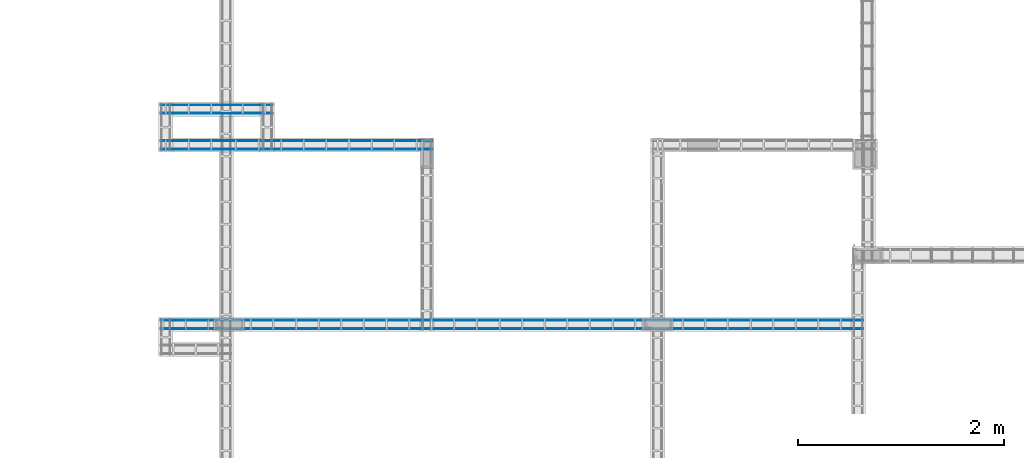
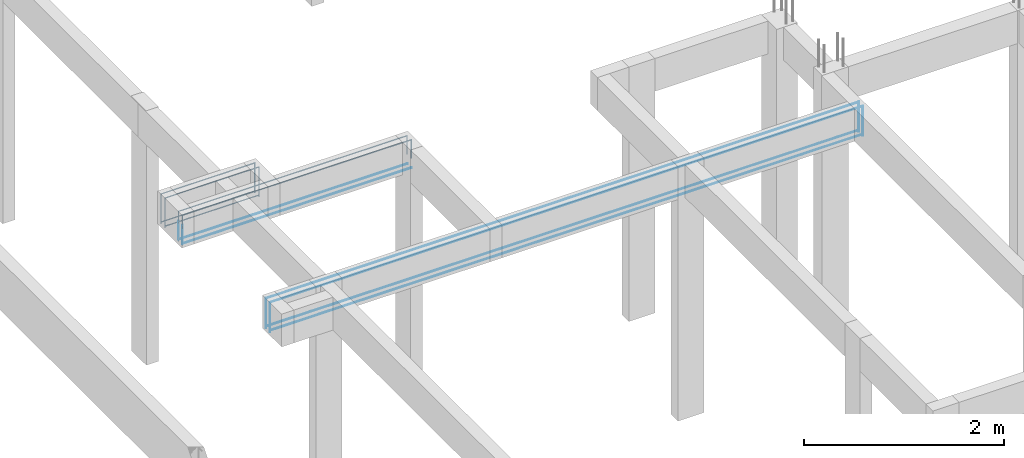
# One storey, part 79 of 236: 12 reinforcing bars.
"""IFC4 building model written with IfcOpenShell, lengths in centimetres."""

from ifc_helpers import new_model, entity, si_unit, derived_unit, frame, origin_with_axes, place, context, project, spatial, element, save


model = new_model("IFC4")

# Units and contexts
model_context = context("Model", 3, precision=1e-05, world=origin_with_axes(), identifier="Body")
ifc_project = project(units=[si_unit("LENGTHUNIT", "METRE", prefix="CENTI"), si_unit("VOLUMEUNIT", "CUBIC_METRE"), si_unit("AREAUNIT", "SQUARE_METRE"), si_unit("POWERUNIT", "WATT"), si_unit("LUMINOUSFLUXUNIT", "LUMEN"), si_unit("ELECTRICCURRENTUNIT", "AMPERE"), si_unit("PRESSUREUNIT", "PASCAL", prefix="KILO"), si_unit("MASSUNIT", "GRAM", prefix="KILO"), si_unit("PLANEANGLEUNIT", "RADIAN"), derived_unit("VOLUMETRICFLOWRATEUNIT", [(si_unit("LENGTHUNIT", "METRE"), 3), (si_unit("TIMEUNIT", "SECOND"), -1)])], contexts=[model_context])

# Site, building, storey
site_placement = place(None, frame((-4000.0, 0.0, 0.0), z_axis=(0.0, 0.0, 1.0), x_axis=(1.0, 0.0, 0.0)))
site = spatial("IfcSite", under=ifc_project, at=site_placement, Name="PADRÃO")
building_placement = place(site_placement, frame((0.0, 0.0, -14.0)))
building = spatial("IfcBuilding", under=site, at=building_placement, Name="CRECHE PRÉ-ESCOLA TIPO 2")
placement_1 = place(building_placement, origin_with_axes())
placement_2 = place(placement_1, frame((0.0, 0.0, 30.0), z_axis=(0.0, 0.0, 1.0), x_axis=(1.0, 0.0, 0.0)))
storey_placement = place(placement_2, frame((0.0, 0.0, 310.0), z_axis=(0.0, 0.0, 1.0), x_axis=(1.0, 0.0, 0.0)))
storey = spatial("IfcBuildingStorey", under=building, at=storey_placement, Name="TERREO", CompositionType="ELEMENT", Elevation=326.0)

# Reinforcing bars
for number, where, z_axis, x_axis, name in (
    (1, (2591.62313276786, 1918.35, -14.8022873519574), (0.0, 0.0, 1.0), (1.0, 0.0, 0.0), "V232 - Longitudinal inferior"),
    (2, (2591.62313276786, 1926.55, -14.8022873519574), (0.0, 0.0, 1.0), (1.0, 0.0, 0.0), "V232 - Longitudinal inferior"),
):
    element("IfcReinforcingBar", number, at=place(storey_placement, frame(where, z_axis=z_axis, x_axis=x_axis)), inside=storey, Name=name, BarLength=0.0, CrossSectionArea=5.0265482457e-05, NominalDiameter=0.8, PredefinedType="MAIN", context=model_context, shape_type="AdvancedSweptSolid", body=[
        entity("IfcSweptDiskSolid", entity("IfcCompositeCurve", [entity("IfcCompositeCurveSegment", "CONTINUOUS", True, entity("IfcPolyline", [entity("IfcCartesianPoint", [-131.723132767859, 0.0, 0.0]), entity("IfcCartesianPoint", [-131.723132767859, 0.0, -22.2977126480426])])), entity("IfcCompositeCurveSegment", "CONTINUOUS", True, entity("IfcPolyline", [entity("IfcCartesianPoint", [-131.723132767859, 0.0, -22.2977126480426]), entity("IfcCartesianPoint", [132.12688303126, 0.0, -22.2977126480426])]))], False), 0.4),
    ])
for number, where, z_axis, x_axis, name in (
    (3, (2591.62500789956, 1918.35, -2.49624973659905), (0.0, 0.0, 1.0), (1.0, 0.0, 0.0), "V232 - Longitudinal superior"),
    (4, (2591.62500789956, 1926.55, -2.49624973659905), (0.0, 0.0, 1.0), (1.0, 0.0, 0.0), "V232 - Longitudinal superior"),
):
    element("IfcReinforcingBar", number, at=place(storey_placement, frame(where, z_axis=z_axis, x_axis=x_axis)), inside=storey, Name=name, BarLength=0.0, CrossSectionArea=5.0265482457e-05, NominalDiameter=0.8, PredefinedType="MAIN", context=model_context, shape_type="AdvancedSweptSolid", body=[
        entity("IfcSweptDiskSolid", entity("IfcCompositeCurve", [entity("IfcCompositeCurveSegment", "CONTINUOUS", True, entity("IfcPolyline", [entity("IfcCartesianPoint", [-131.725007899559, 0.0, -36.4037502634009]), entity("IfcCartesianPoint", [-131.725007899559, 0.0, -0.403750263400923])])), entity("IfcCompositeCurveSegment", "CONTINUOUS", True, entity("IfcPolyline", [entity("IfcCartesianPoint", [-131.725007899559, 0.0, -0.403750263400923]), entity("IfcCartesianPoint", [131.725007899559, 0.0, -0.403750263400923])])), entity("IfcCompositeCurveSegment", "CONTINUOUS", True, entity("IfcPolyline", [entity("IfcCartesianPoint", [131.725007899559, 0.0, -0.403750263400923]), entity("IfcCartesianPoint", [131.725007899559, 0.0, -22.7014629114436])]))], False), 0.4),
    ])
for number, where, z_axis, x_axis, name in (
    (5, (2514.0, 1961.45, -14.8022873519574), (0.0, 0.0, 1.0), (1.0, 0.0, 0.0), "V233 - Longitudinal inferior"),
    (6, (2514.0, 1953.25, -14.8022873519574), (0.0, 0.0, 1.0), (1.0, 0.0, 0.0), "V233 - Longitudinal inferior"),
):
    element("IfcReinforcingBar", number, at=place(storey_placement, frame(where, z_axis=z_axis, x_axis=x_axis)), inside=storey, Name=name, BarLength=0.0, CrossSectionArea=5.0265482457e-05, NominalDiameter=0.8, PredefinedType="MAIN", context=model_context, shape_type="AdvancedSweptSolid", body=[
        entity("IfcSweptDiskSolid", entity("IfcCompositeCurve", [entity("IfcCompositeCurveSegment", "CONTINUOUS", True, entity("IfcPolyline", [entity("IfcCartesianPoint", [-54.1, 0.0, 0.0]), entity("IfcCartesianPoint", [-54.1, 0.0, -22.2977126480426])])), entity("IfcCompositeCurveSegment", "CONTINUOUS", True, entity("IfcPolyline", [entity("IfcCartesianPoint", [-54.1, 0.0, -22.2977126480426]), entity("IfcCartesianPoint", [54.1, 0.0, -22.2977126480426])])), entity("IfcCompositeCurveSegment", "CONTINUOUS", True, entity("IfcPolyline", [entity("IfcCartesianPoint", [54.1, 0.0, -22.2977126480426]), entity("IfcCartesianPoint", [54.1, 0.0, 0.0])]))], False), 0.4),
    ])
for number, where, z_axis, x_axis, name in (
    (7, (2514.0, 1961.45, -2.49624973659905), (0.0, 0.0, 1.0), (1.0, 0.0, 0.0), "V233 - Longitudinal superior"),
    (8, (2514.0, 1953.25, -2.49624973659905), (0.0, 0.0, 1.0), (1.0, 0.0, 0.0), "V233 - Longitudinal superior"),
):
    element("IfcReinforcingBar", number, at=place(storey_placement, frame(where, z_axis=z_axis, x_axis=x_axis)), inside=storey, Name=name, BarLength=0.0, CrossSectionArea=5.0265482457e-05, NominalDiameter=0.8, PredefinedType="MAIN", context=model_context, shape_type="AdvancedSweptSolid", body=[
        entity("IfcSweptDiskSolid", entity("IfcCompositeCurve", [entity("IfcCompositeCurveSegment", "CONTINUOUS", True, entity("IfcPolyline", [entity("IfcCartesianPoint", [-54.1, 0.0, -36.4037502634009]), entity("IfcCartesianPoint", [-54.1, 0.0, -0.403750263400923])])), entity("IfcCompositeCurveSegment", "CONTINUOUS", True, entity("IfcPolyline", [entity("IfcCartesianPoint", [-54.1, 0.0, -0.403750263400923]), entity("IfcCartesianPoint", [54.1, 0.0, -0.403750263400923])])), entity("IfcCompositeCurveSegment", "CONTINUOUS", True, entity("IfcPolyline", [entity("IfcCartesianPoint", [54.1, 0.0, -0.403750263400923]), entity("IfcCartesianPoint", [54.1, 0.0, -36.4037502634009])]))], False), 0.4),
    ])
for number, where, z_axis, x_axis, name in (
    (9, (2801.4981248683, 1751.94, -14.8022873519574), (0.0, 0.0, 1.0), (1.0, 0.0, 0.0), "V238 - Longitudinal inferior"),
    (10, (2801.4981248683, 1743.74, -14.8022873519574), (0.0, 0.0, 1.0), (1.0, 0.0, 0.0), "V238 - Longitudinal inferior"),
):
    element("IfcReinforcingBar", number, at=place(storey_placement, frame(where, z_axis=z_axis, x_axis=x_axis)), inside=storey, Name=name, BarLength=0.0, CrossSectionArea=5.0265482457e-05, NominalDiameter=0.8, PredefinedType="MAIN", context=model_context, shape_type="AdvancedSweptSolid", body=[
        entity("IfcSweptDiskSolid", entity("IfcCompositeCurve", [entity("IfcCompositeCurveSegment", "CONTINUOUS", True, entity("IfcPolyline", [entity("IfcCartesianPoint", [-341.5981248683, 0.0, 0.0]), entity("IfcCartesianPoint", [-341.5981248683, 0.0, -22.2977126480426])])), entity("IfcCompositeCurveSegment", "CONTINUOUS", True, entity("IfcPolyline", [entity("IfcCartesianPoint", [-341.5981248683, 0.0, -22.2977126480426]), entity("IfcCartesianPoint", [342.0018751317, 0.0, -22.2977126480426])]))], False), 0.4),
    ])
for number, where, z_axis, x_axis, name in (
    (11, (2801.5, 1743.74, -2.49624973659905), (0.0, 0.0, 1.0), (1.0, 0.0, 0.0), "V238 - Longitudinal superior"),
    (12, (2801.5, 1751.94, -2.49624973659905), (0.0, 0.0, 1.0), (1.0, 0.0, 0.0), "V238 - Longitudinal superior"),
):
    element("IfcReinforcingBar", number, at=place(storey_placement, frame(where, z_axis=z_axis, x_axis=x_axis)), inside=storey, Name=name, BarLength=0.0, CrossSectionArea=5.0265482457e-05, NominalDiameter=0.8, PredefinedType="MAIN", context=model_context, shape_type="AdvancedSweptSolid", body=[
        entity("IfcSweptDiskSolid", entity("IfcCompositeCurve", [entity("IfcCompositeCurveSegment", "CONTINUOUS", True, entity("IfcPolyline", [entity("IfcCartesianPoint", [-341.6, 0.0, -36.4037502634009]), entity("IfcCartesianPoint", [-341.6, 0.0, -0.403750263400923])])), entity("IfcCompositeCurveSegment", "CONTINUOUS", True, entity("IfcPolyline", [entity("IfcCartesianPoint", [-341.6, 0.0, -0.403750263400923]), entity("IfcCartesianPoint", [341.6, 0.0, -0.403750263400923])])), entity("IfcCompositeCurveSegment", "CONTINUOUS", True, entity("IfcPolyline", [entity("IfcCartesianPoint", [341.6, 0.0, -0.403750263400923]), entity("IfcCartesianPoint", [341.6, 0.0, -36.4037502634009])]))], False), 0.4),
    ])

save(model, "model.ifc")
